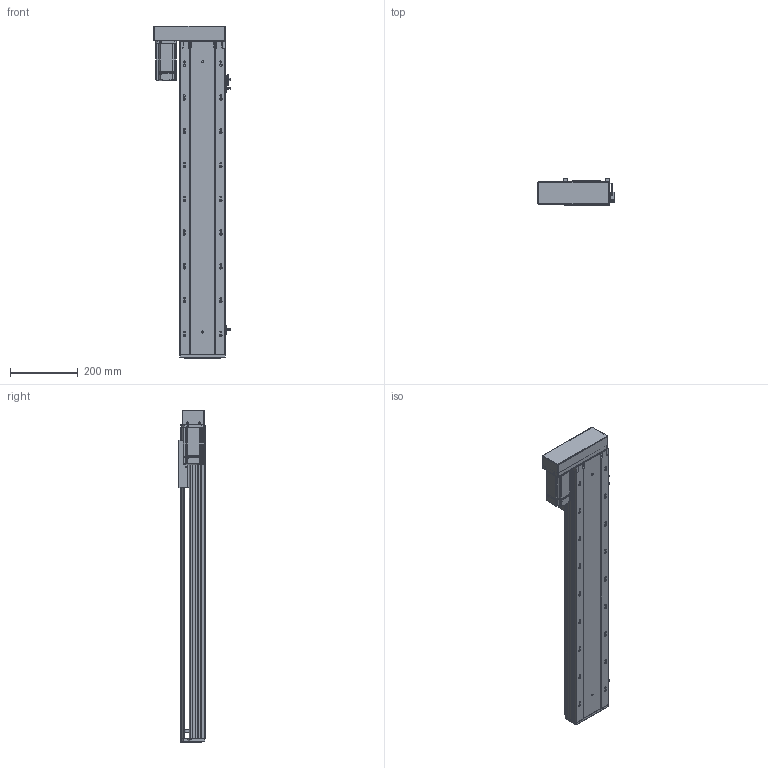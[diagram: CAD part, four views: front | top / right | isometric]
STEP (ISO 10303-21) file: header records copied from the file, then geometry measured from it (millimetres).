
FILE_DESCRIPTION (( 'STEP AP203' ), '1' );
FILE_NAME ('RY140-L1620-300-LK.SLDASM_700.step', '2021-02-22T02:46:41', ( '盈信电脑' ), ( '东莞市道滘镇水果街19号' ), 'SwSTEP 2.0', 'SolidWorks 2012', '' );
FILE_SCHEMA (( 'CONFIG_CONTROL_DESIGN' ));
Length unit declared in the file: millimetre
Products named in the file (14): RY140蛌殏萇儂假蚾啣; 侂狟400W侜督萇儂; 15; RY140酘衵殏萇儂欶; RY140转折电机端支撑座; RY120外置感应片(140共用）; 滅袉蝶18-10; 覜茼ん672; RY140綴裔啣; RY140-300蛌殏倰第奻裔啣-LK_700; 滅袉蝶18-24; RY140-300蛌殏倰第菁釱-LK_700; RY140臏賑輸; RY140-L1620-300-LK.SLDASM_700
Assembly tree (16 placements, depth 3):
  RY140-L1620-300-LK.SLDASM_700
    RY140-300蛌殏倰第菁釱-LK_700
    RY140臏賑輸
    RY140-300蛌殏倰第奻裔啣-LK_700
    RY140綴裔啣
    滅袉蝶18-24  x2
    滅袉蝶18-10
    覜茼ん672  x3
    RY120外置感应片(140共用）
    RY140转折电机端支撑座
    RY140蛌殏萇儂假蚾啣
    侂狟400W侜督萇儂
      15
    RY140酘衵殏萇儂欶
Bounding box: 225.2 x 78 x 983 mm (x, y, z)
Volume: 3280616.9 mm3; surface area: 1200613.5 mm2
Topology: 15 solids, 15 shells, 2339 faces, 6496 edges, 4164 vertices
Faces by surface type: plane 1174, cylinder 878, cone 194, bspline 93
Entity records: 74543 total; most frequent: CARTESIAN_POINT 18187, ORIENTED_EDGE 11696, DIRECTION 11017, EDGE_CURVE 5848, VERTEX_POINT 3832, LINE 3705, VECTOR 3705, AXIS2_PLACEMENT_3D 3656
